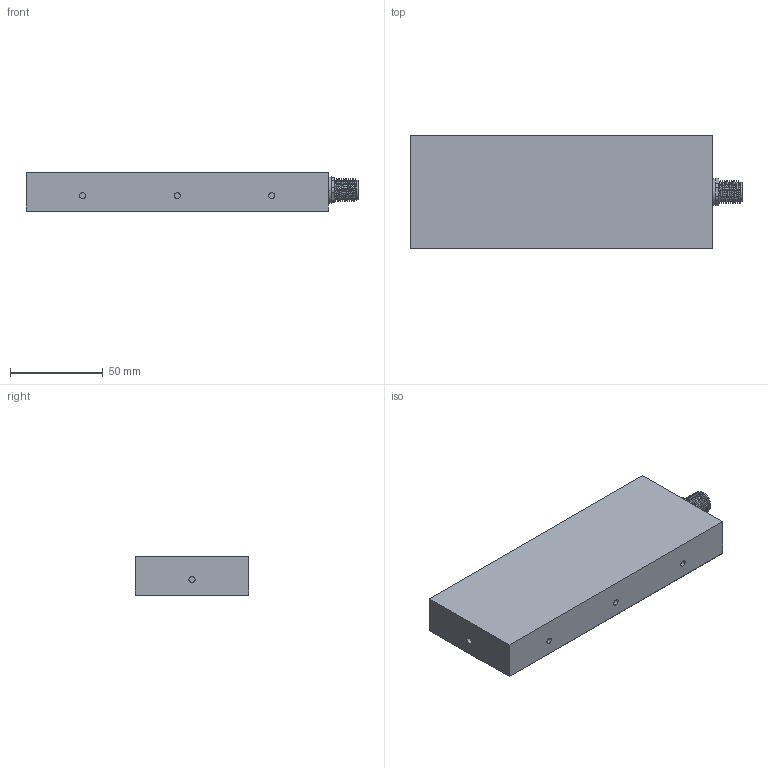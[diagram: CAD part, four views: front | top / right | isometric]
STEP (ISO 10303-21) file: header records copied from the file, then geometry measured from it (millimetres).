
FILE_DESCRIPTION (( 'STEP AP214' ), '1' );
FILE_NAME ('CSBACKII-xxxx-xxx_CLIENT1505.STEP', '2022-04-01T09:18:33', ( '' ), ( '' ), 'SwSTEP 2.0', 'SolidWorks 2020', '' );
FILE_SCHEMA (( 'AUTOMOTIVE_DESIGN' ));
Length unit declared in the file: millimetre
Products named in the file (1): CSBACKII-xxxx-xxx_CLIENT1505
Bounding box: 179 x 61 x 21.06 mm (x, y, z)
Volume: 210373.7 mm3; surface area: 30957.9 mm2
Topology: 1 solids, 2 shells, 316 faces, 795 edges, 522 vertices
Faces by surface type: plane 168, bspline 83, cylinder 57, torus 8
Entity records: 14994 total; most frequent: CARTESIAN_POINT 7963, ORIENTED_EDGE 1590, DIRECTION 1171, EDGE_CURVE 795, VERTEX_POINT 522, VECTOR 471, LINE 471, EDGE_LOOP 355
